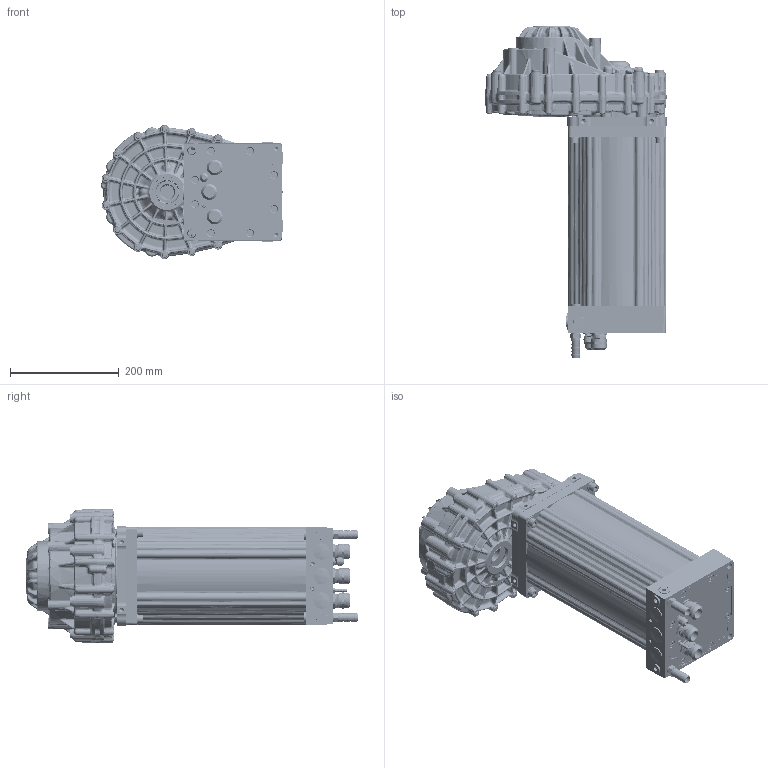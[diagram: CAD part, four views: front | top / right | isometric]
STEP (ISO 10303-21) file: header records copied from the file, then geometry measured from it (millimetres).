
FILE_DESCRIPTION(('CATIA V5 STEP Exchange'),'2;1');
FILE_NAME('R:\180___SWIND_PRODUCTS\001___R&D\002___DESIGN_FILES\180-100-034___HPD-L_240_DRIVE_UNIT_4WD\180-100-034.00___HPD-L_240_DRIVE_UNIT_4WD.stp','2022-06-27T13:46:28+00:00',('none'),('none'),'CATIA Version 5 Release 20 GA (IN-10)','CATIA V5 STEP AP203','none');
FILE_SCHEMA(('CONFIG_CONTROL_DESIGN'));
Products named in the file (1): 180-100-034
Bounding box: 335.35 x 609 x 246.26 mm (x, y, z)
Volume: 15986219.8 mm3; surface area: 998788.2 mm2
Topology: 18 solids, 91 shells, 12514 faces, 30676 edges, 18088 vertices
Faces by surface type: bspline 5820, cylinder 1887, plane 1495, torus 1218, cone 1136, sphere 441, extrusion 440, revolution 77
Entity records: 634383 total; most frequent: CARTESIAN_POINT 413767, ORIENTED_EDGE 60248, EDGE_CURVE 30124, DIRECTION 20414, VERTEX_POINT 18088, B_SPLINE_CURVE_WITH_KNOTS 16726, EDGE_LOOP 12968, ADVANCED_FACE 12514
